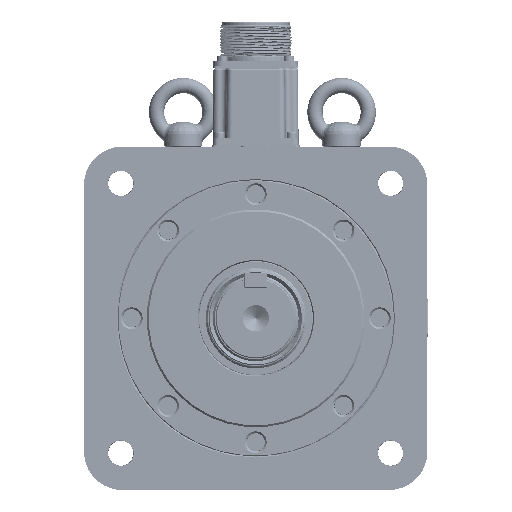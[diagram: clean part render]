
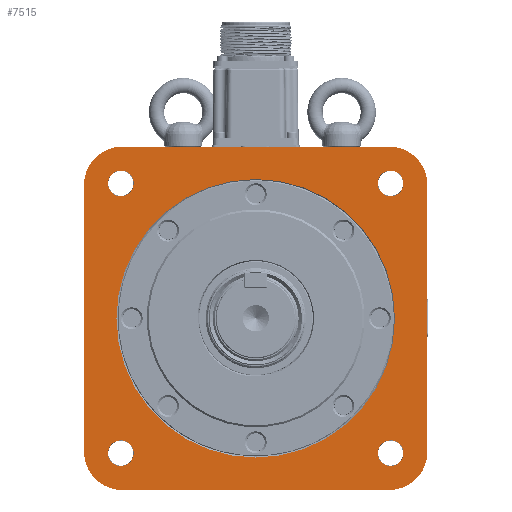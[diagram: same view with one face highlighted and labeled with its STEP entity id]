
A CAD part, front view. The second image highlights one B-rep face of the part: STEP entity #7515.
In plain terms, the highlighted planar face has unit normal (0, -1, 0).
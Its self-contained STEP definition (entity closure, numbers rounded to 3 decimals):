
#7515 = ADVANCED_FACE( '', ( #15289, #15290, #15291, #15292, #15293, #15294 ), #15295, .F. );
#15289 = FACE_BOUND( '', #38924, .T. );
#15290 = FACE_BOUND( '', #38925, .T. );
#15291 = FACE_BOUND( '', #38926, .T. );
#15292 = FACE_BOUND( '', #38927, .T. );
#15293 = FACE_BOUND( '', #38928, .T. );
#15294 = FACE_OUTER_BOUND( '', #38929, .T. );
#15295 = PLANE( '', #38930 );
#38924 = EDGE_LOOP( '', ( #58542 ) );
#38925 = EDGE_LOOP( '', ( #58543 ) );
#38926 = EDGE_LOOP( '', ( #58544 ) );
#38927 = EDGE_LOOP( '', ( #58545 ) );
#38928 = EDGE_LOOP( '', ( #58546 ) );
#38929 = EDGE_LOOP( '', ( #58547, #58548, #58549, #58550, #58551, #58552, #58553, #58554 ) );
#38930 = AXIS2_PLACEMENT_3D( '', #58555, #58556, #58557 );
#58542 = ORIENTED_EDGE( '', *, *, #67254, .T. );
#58543 = ORIENTED_EDGE( '', *, *, #68198, .F. );
#58544 = ORIENTED_EDGE( '', *, *, #62490, .F. );
#58545 = ORIENTED_EDGE( '', *, *, #65105, .F. );
#58546 = ORIENTED_EDGE( '', *, *, #64989, .F. );
#58547 = ORIENTED_EDGE( '', *, *, #64066, .T. );
#58548 = ORIENTED_EDGE( '', *, *, #66813, .T. );
#58549 = ORIENTED_EDGE( '', *, *, #64703, .T. );
#58550 = ORIENTED_EDGE( '', *, *, #64658, .T. );
#58551 = ORIENTED_EDGE( '', *, *, #66817, .T. );
#58552 = ORIENTED_EDGE( '', *, *, #63639, .T. );
#58553 = ORIENTED_EDGE( '', *, *, #64600, .T. );
#58554 = ORIENTED_EDGE( '', *, *, #68199, .T. );
#58555 = CARTESIAN_POINT( '', ( 0., 1.3, 72.5 ) );
#58556 = DIRECTION( '', ( 0., 1., 0. ) );
#58557 = DIRECTION( '', ( 0., 0., 1. ) );
#62490 = EDGE_CURVE( '', #71279, #71279, #71280, .F. );
#63639 = EDGE_CURVE( '', #73168, #73169, #73170, .F. );
#64066 = EDGE_CURVE( '', #73835, #73833, #73836, .T. );
#64600 = EDGE_CURVE( '', #73169, #74652, #74654, .T. );
#64658 = EDGE_CURVE( '', #74745, #74746, #74747, .F. );
#64703 = EDGE_CURVE( '', #74819, #74745, #74820, .T. );
#64989 = EDGE_CURVE( '', #75232, #75232, #75233, .F. );
#65105 = EDGE_CURVE( '', #75408, #75408, #75409, .F. );
#66813 = EDGE_CURVE( '', #73833, #74819, #77770, .F. );
#66817 = EDGE_CURVE( '', #74746, #73168, #77775, .T. );
#67254 = EDGE_CURVE( '', #78316, #78316, #78317, .T. );
#68198 = EDGE_CURVE( '', #79395, #79395, #79396, .F. );
#68199 = EDGE_CURVE( '', #74652, #73835, #79397, .F. );
#71279 = VERTEX_POINT( '', #86407 );
#71280 = CIRCLE( '', #86408, 6.745 );
#73168 = VERTEX_POINT( '', #90665 );
#73169 = VERTEX_POINT( '', #90666 );
#73170 = CIRCLE( '', #90667, 20. );
#73833 = VERTEX_POINT( '', #92531 );
#73835 = VERTEX_POINT( '', #92534 );
#73836 = LINE( '', #92535, #92536 );
#74652 = VERTEX_POINT( '', #95554 );
#74654 = LINE( '', #95557, #95558 );
#74745 = VERTEX_POINT( '', #95751 );
#74746 = VERTEX_POINT( '', #95752 );
#74747 = CIRCLE( '', #95753, 20. );
#74819 = VERTEX_POINT( '', #95901 );
#74820 = LINE( '', #95902, #95903 );
#75232 = VERTEX_POINT( '', #96955 );
#75233 = CIRCLE( '', #96956, 6.745 );
#75408 = VERTEX_POINT( '', #97361 );
#75409 = CIRCLE( '', #97362, 6.745 );
#77770 = CIRCLE( '', #104093, 20. );
#77775 = LINE( '', #104099, #104100 );
#78316 = VERTEX_POINT( '', #106016 );
#78317 = CIRCLE( '', #106017, 73. );
#79395 = VERTEX_POINT( '', #108188 );
#79396 = CIRCLE( '', #108189, 6.745 );
#79397 = CIRCLE( '', #108190, 20. );
#86407 = CARTESIAN_POINT( '', ( 70.711, 1.3, 77.455 ) );
#86408 = AXIS2_PLACEMENT_3D( '', #110725, #110726, #110727 );
#90665 = CARTESIAN_POINT( '', ( 90., 1.3, 70. ) );
#90666 = CARTESIAN_POINT( '', ( 70., 1.3, 90. ) );
#90667 = AXIS2_PLACEMENT_3D( '', #112189, #112190, #112191 );
#92531 = CARTESIAN_POINT( '', ( -90., 1.3, -70. ) );
#92534 = CARTESIAN_POINT( '', ( -90., 1.3, 70. ) );
#92535 = CARTESIAN_POINT( '', ( -90., 1.3, 90. ) );
#92536 = VECTOR( '', #112668, 1000. );
#95554 = CARTESIAN_POINT( '', ( -70., 1.3, 90. ) );
#95557 = CARTESIAN_POINT( '', ( 90., 1.3, 90. ) );
#95558 = VECTOR( '', #113294, 1000. );
#95751 = CARTESIAN_POINT( '', ( 70., 1.3, -90. ) );
#95752 = CARTESIAN_POINT( '', ( 90., 1.3, -70. ) );
#95753 = AXIS2_PLACEMENT_3D( '', #113359, #113360, #113361 );
#95901 = CARTESIAN_POINT( '', ( -70., 1.3, -90. ) );
#95902 = CARTESIAN_POINT( '', ( -90., 1.3, -90. ) );
#95903 = VECTOR( '', #113432, 1000. );
#96955 = CARTESIAN_POINT( '', ( -70.711, 1.3, -63.966 ) );
#96956 = AXIS2_PLACEMENT_3D( '', #113746, #113747, #113748 );
#97361 = CARTESIAN_POINT( '', ( 70.711, 1.3, -63.966 ) );
#97362 = AXIS2_PLACEMENT_3D( '', #113896, #113897, #113898 );
#104093 = AXIS2_PLACEMENT_3D( '', #115724, #115725, #115726 );
#104099 = CARTESIAN_POINT( '', ( 90., 1.3, -90. ) );
#104100 = VECTOR( '', #115731, 1000. );
#106016 = CARTESIAN_POINT( '', ( 0., 1.3, 73. ) );
#106017 = AXIS2_PLACEMENT_3D( '', #116156, #116157, #116158 );
#108188 = CARTESIAN_POINT( '', ( -70.711, 1.3, 77.455 ) );
#108189 = AXIS2_PLACEMENT_3D( '', #116834, #116835, #116836 );
#108190 = AXIS2_PLACEMENT_3D( '', #116837, #116838, #116839 );
#110725 = CARTESIAN_POINT( '', ( 70.711, 1.3, 70.711 ) );
#110726 = DIRECTION( '', ( 0., 1., 0. ) );
#110727 = DIRECTION( '', ( 0., 0., 1. ) );
#112189 = CARTESIAN_POINT( '', ( 70., 1.3, 70. ) );
#112190 = DIRECTION( '', ( 0., 1., 0. ) );
#112191 = DIRECTION( '', ( 0., 0., 1. ) );
#112668 = DIRECTION( '', ( 0., 0., -1. ) );
#113294 = DIRECTION( '', ( -1., 0., 0. ) );
#113359 = CARTESIAN_POINT( '', ( 70., 1.3, -70. ) );
#113360 = DIRECTION( '', ( 0., 1., 0. ) );
#113361 = DIRECTION( '', ( 0., 0., 1. ) );
#113432 = DIRECTION( '', ( 1., 0., 0. ) );
#113746 = CARTESIAN_POINT( '', ( -70.711, 1.3, -70.711 ) );
#113747 = DIRECTION( '', ( 0., 1., 0. ) );
#113748 = DIRECTION( '', ( 0., 0., 1. ) );
#113896 = CARTESIAN_POINT( '', ( 70.711, 1.3, -70.711 ) );
#113897 = DIRECTION( '', ( 0., 1., 0. ) );
#113898 = DIRECTION( '', ( 0., 0., 1. ) );
#115724 = CARTESIAN_POINT( '', ( -70., 1.3, -70. ) );
#115725 = DIRECTION( '', ( 0., 1., 0. ) );
#115726 = DIRECTION( '', ( 0., 0., 1. ) );
#115731 = DIRECTION( '', ( 0., 0., 1. ) );
#116156 = CARTESIAN_POINT( '', ( 0., 1.3, 0. ) );
#116157 = DIRECTION( '', ( 0., 1., 0. ) );
#116158 = DIRECTION( '', ( 0., 0., 1. ) );
#116834 = CARTESIAN_POINT( '', ( -70.711, 1.3, 70.711 ) );
#116835 = DIRECTION( '', ( 0., 1., 0. ) );
#116836 = DIRECTION( '', ( 0., 0., 1. ) );
#116837 = CARTESIAN_POINT( '', ( -70., 1.3, 70. ) );
#116838 = DIRECTION( '', ( 0., 1., 0. ) );
#116839 = DIRECTION( '', ( 0., 0., 1. ) );
